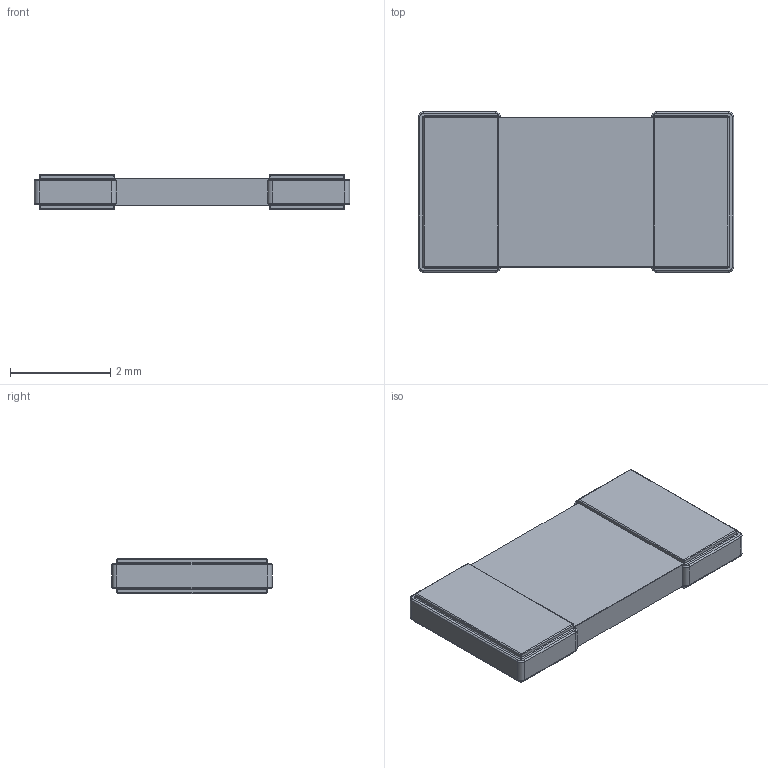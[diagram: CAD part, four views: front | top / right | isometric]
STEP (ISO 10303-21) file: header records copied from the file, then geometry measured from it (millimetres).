
FILE_DESCRIPTION(('STEP AP203'), '1');
FILE_NAME('櫻蠉錪', '', ('UNSPECIFIED'), ('UNSPECIFIED'), 'ASCON STEP Converter 1.6', 'ASCON Math Kernel', '');
FILE_SCHEMA(('CONFIG_CONTROL_DESIGN'));
Length unit declared in the file: millimetre
Bounding box: 6.3 x 3.2 x 0.7 mm (x, y, z)
Volume: 11.9 mm3; surface area: 51.2 mm2
Topology: 1 solids, 1 shells, 160 faces, 390 edges, 214 vertices
Faces by surface type: cylinder 72, plane 40, torus 32, sphere 16
Entity records: 5964 total; most frequent: CARTESIAN_POINT 923, DIRECTION 852, ORIENTED_EDGE 748, EDGE_CURVE 374, AXIS2_PLACEMENT_3D 341, VERTEX_POINT 214, CIRCLE 180, LINE 170
